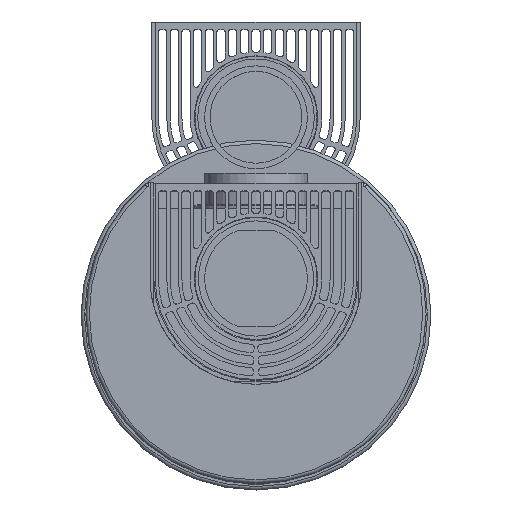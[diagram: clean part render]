
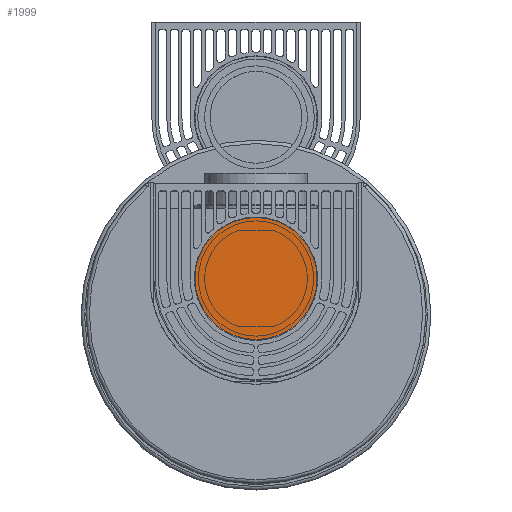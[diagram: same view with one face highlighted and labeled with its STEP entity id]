
A CAD part, top view. The second image highlights one B-rep face of the part: STEP entity #1999.
In plain terms, the highlighted planar face has unit normal (0, 0, 1).
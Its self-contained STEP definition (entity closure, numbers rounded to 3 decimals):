
#1999 = ADVANCED_FACE( '', ( #5463 ), #5464, .F. );
#5463 = FACE_OUTER_BOUND( '', #11166, .T. );
#5464 = PLANE( '', #11167 );
#11166 = EDGE_LOOP( '', ( #44369 ) );
#11167 = AXIS2_PLACEMENT_3D( '', #44370, #44371, #44372 );
#44369 = ORIENTED_EDGE( '', *, *, #59700, .F. );
#44370 = CARTESIAN_POINT( '', ( 0., 0., 0. ) );
#44371 = DIRECTION( '', ( 0., 0., -1. ) );
#44372 = DIRECTION( '', ( -1., 0., 0. ) );
#59700 = EDGE_CURVE( '', #66050, #66050, #66051, .T. );
#66050 = VERTEX_POINT( '', #76787 );
#66051 = CIRCLE( '', #76788, 89. );
#76787 = CARTESIAN_POINT( '', ( 0., -89., 0. ) );
#76788 = AXIS2_PLACEMENT_3D( '', #98857, #98858, #98859 );
#98857 = CARTESIAN_POINT( '', ( 0., 0., 0. ) );
#98858 = DIRECTION( '', ( 0., 0., -1. ) );
#98859 = DIRECTION( '', ( 0., -1., 0. ) );
